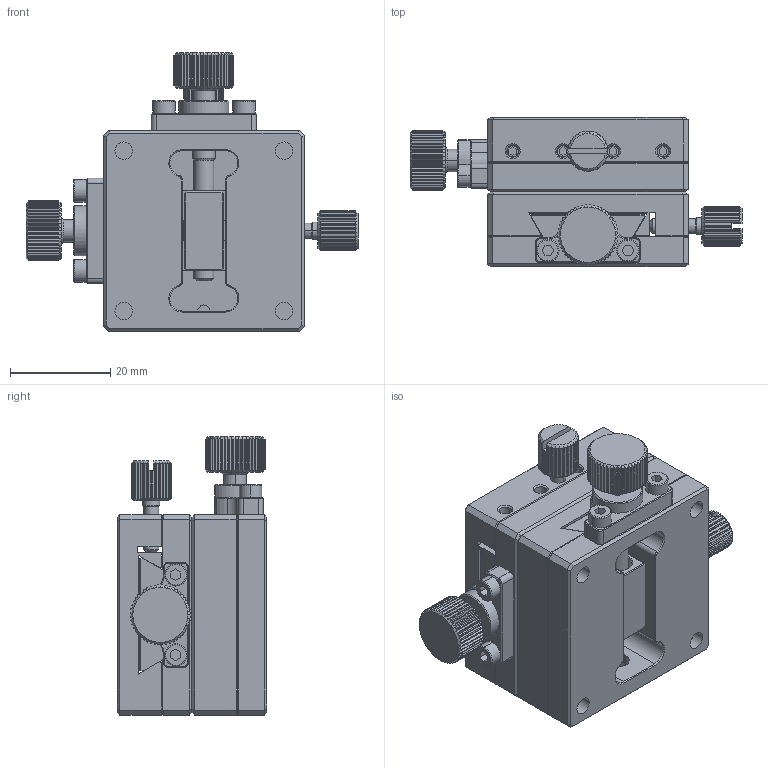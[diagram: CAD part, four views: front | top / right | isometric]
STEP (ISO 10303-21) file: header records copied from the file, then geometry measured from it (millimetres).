
FILE_DESCRIPTION((''),'2;1');
FILE_NAME('ASSY-40-XY-R_ASM','2021-06-28T16:59:22',('windows10'),(''),'CREO PARAMETRIC BY PTC INC, 2018260','CREO PARAMETRIC BY PTC INC, 2018260','');
FILE_SCHEMA(('CONFIG_CONTROL_DESIGN'));
Length unit declared in the file: millimetre
Products named in the file (14): BOTTOM-40-40-15; TOP-40-40-15; COUPLER-4060; SCREW-M2D5-4; HANDLE-12-M4-45D5; HOLDER-HANDLE; E-RING-3-7; ASSY-HANDLE-12-M4-45D5_ASM; 2D5-10; 3-5-NOHEAD; BALL-2D381; STOPPER-8-M3-16; ASSY-40-R_ASM; ASSY-40-XY-R_ASM
Assembly tree (19 placements, depth 4):
  ASSY-40-XY-R_ASM
    ASSY-40-R_ASM  x2
      BOTTOM-40-40-15
      TOP-40-40-15
      COUPLER-4060
      SCREW-M2D5-4
      ASSY-HANDLE-12-M4-45D5_ASM
        HANDLE-12-M4-45D5
        HOLDER-HANDLE
        E-RING-3-7
      2D5-10
      3-5-NOHEAD
      BALL-2D381
      STOPPER-8-M3-16
Bounding box: 66.25 x 29.8 x 55.5 mm (x, y, z)
Volume: 43978.2 mm3; surface area: 31157.7 mm2
Topology: 32 solids, 32 shells, 1638 faces, 4150 edges, 2616 vertices
Faces by surface type: plane 826, cylinder 506, cone 270, torus 24, sphere 12
Entity records: 23315 total; most frequent: CARTESIAN_POINT 5280, ORIENTED_EDGE 3746, DIRECTION 3702, EDGE_CURVE 1873, AXIS2_PLACEMENT_3D 1394, VERTEX_POINT 1184, VECTOR 914, LINE 914
